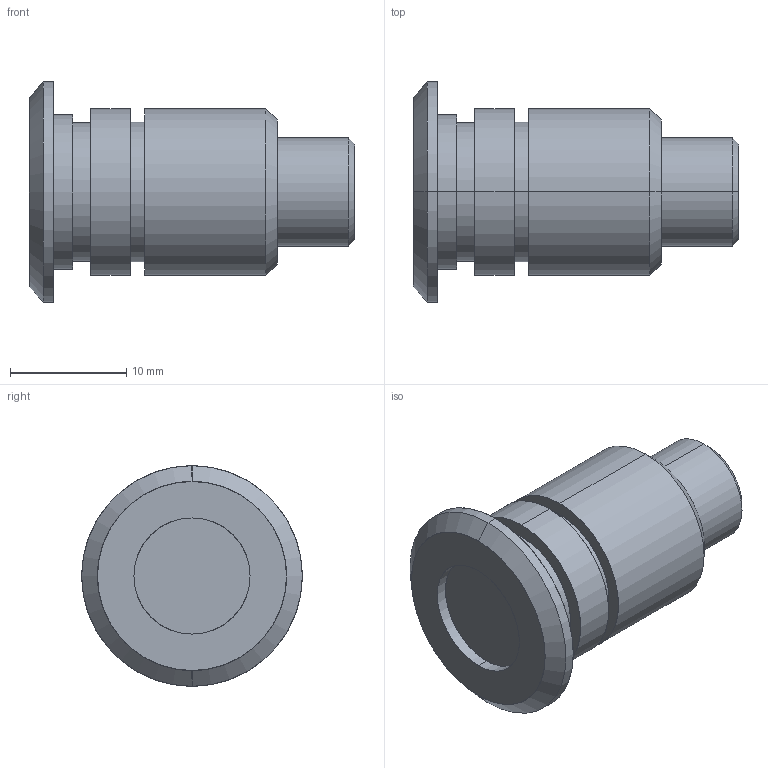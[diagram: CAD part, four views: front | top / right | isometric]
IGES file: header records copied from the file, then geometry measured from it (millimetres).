
Start section: SolidWorks IGES file using analytic representation for surfaces
Global section: file name: L:\Tecnico_PMT\R&D\NEMOstudio\LUX\LUX INDOOR\3D sito\LUX INDOOR.IGS; native system: SolidWorks 2016; preprocessor: SolidWorks 2016; author: SamueleAmbrogioILTI; date: 261007.103435; units: millimetre
Bounding box: 28 x 19 x 19 mm (x, y, z)
Surface area: 1872.3 mm2 (no closed solid volume)
Topology: 0 solids, 0 shells, 32 faces, 544 edges, 544 vertices
Faces by surface type: revolution 24, bspline 8
